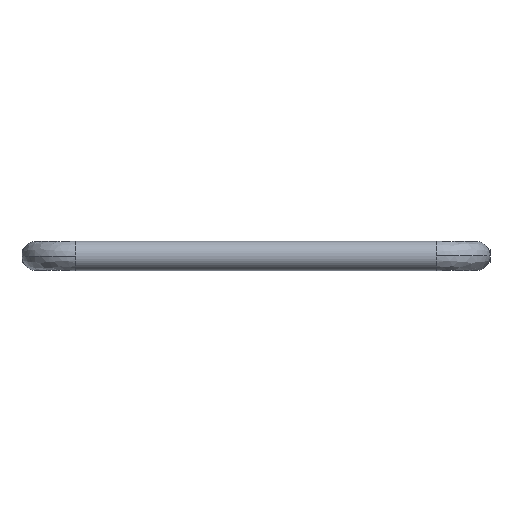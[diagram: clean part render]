
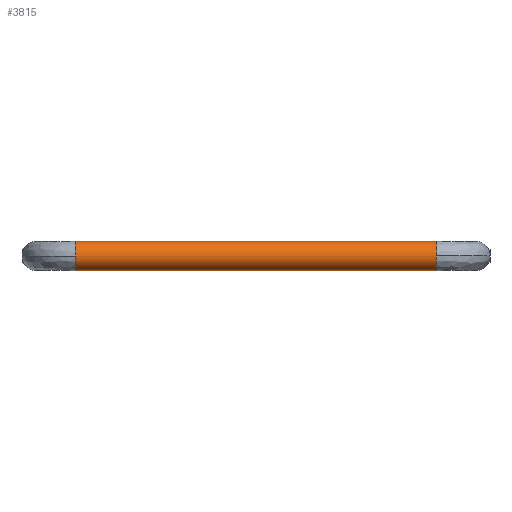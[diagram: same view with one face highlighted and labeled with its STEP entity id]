
A CAD part, front view. The second image highlights one B-rep face of the part: STEP entity #3815.
In plain terms, the highlighted cylindrical face has radius 3 mm (diameter 6 mm), a partial arc.
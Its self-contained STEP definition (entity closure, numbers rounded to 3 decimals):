
#144 = EDGE_LOOP ( 'NONE', ( #574, #3087, #2159, #4270, #2615, #1624 ) ) ;
#289 = VERTEX_POINT ( 'NONE', #1090 ) ;
#393 = CARTESIAN_POINT ( 'NONE',  ( 3., 21., -37. ) ) ;
#524 = CARTESIAN_POINT ( 'NONE',  ( -3., 21., -37. ) ) ;
#556 = VERTEX_POINT ( 'NONE', #659 ) ;
#574 = ORIENTED_EDGE ( 'NONE', *, *, #752, .T. ) ;
#659 = CARTESIAN_POINT ( 'NONE',  ( 3., 21., -37. ) ) ;
#752 = EDGE_CURVE ( 'NONE', #289, #3978, #2975, .T. ) ;
#914 = DIRECTION ( 'NONE',  ( 1., 0., 0. ) ) ;
#1090 = CARTESIAN_POINT ( 'NONE',  ( 0., 24., -37. ) ) ;
#1106 = CARTESIAN_POINT ( 'NONE',  ( 0., 21., -37. ) ) ;
#1124 = CARTESIAN_POINT ( 'NONE',  ( -3., 21., -37. ) ) ;
#1218 = CARTESIAN_POINT ( 'NONE',  ( 0., 21., -37. ) ) ;
#1226 = CARTESIAN_POINT ( 'NONE',  ( 0., 21., 37. ) ) ;
#1227 = LINE ( 'NONE', #524, #3655 ) ;
#1310 = VERTEX_POINT ( 'NONE', #3823 ) ;
#1449 = DIRECTION ( 'NONE',  ( 1., 0., 0. ) ) ;
#1494 = DIRECTION ( 'NONE',  ( 0., 0., 1. ) ) ;
#1551 = EDGE_CURVE ( 'NONE', #3978, #2602, #1227, .T. ) ;
#1624 = ORIENTED_EDGE ( 'NONE', *, *, #1822, .T. ) ;
#1631 = VERTEX_POINT ( 'NONE', #2171 ) ;
#1636 = AXIS2_PLACEMENT_3D ( 'NONE', #3679, #3382, #3339 ) ;
#1789 = DIRECTION ( 'NONE',  ( 0., 0., 1. ) ) ;
#1822 = EDGE_CURVE ( 'NONE', #556, #289, #3190, .T. ) ;
#1914 = AXIS2_PLACEMENT_3D ( 'NONE', #2927, #4302, #4071 ) ;
#1917 = EDGE_CURVE ( 'NONE', #1310, #1631, #3343, .T. ) ;
#2159 = ORIENTED_EDGE ( 'NONE', *, *, #2761, .T. ) ;
#2171 = CARTESIAN_POINT ( 'NONE',  ( 3., 21., 37. ) ) ;
#2273 = AXIS2_PLACEMENT_3D ( 'NONE', #1226, #3603, #914 ) ;
#2396 = AXIS2_PLACEMENT_3D ( 'NONE', #1106, #1789, #1449 ) ;
#2602 = VERTEX_POINT ( 'NONE', #3130 ) ;
#2615 = ORIENTED_EDGE ( 'NONE', *, *, #3537, .F. ) ;
#2761 = EDGE_CURVE ( 'NONE', #2602, #1310, #4064, .T. ) ;
#2927 = CARTESIAN_POINT ( 'NONE',  ( 0., 21., 37. ) ) ;
#2975 = CIRCLE ( 'NONE', #2396, 3. ) ;
#3087 = ORIENTED_EDGE ( 'NONE', *, *, #1551, .T. ) ;
#3120 = DIRECTION ( 'NONE',  ( 0., 0., 1. ) ) ;
#3121 = VECTOR ( 'NONE', #3120, 1000. ) ;
#3130 = CARTESIAN_POINT ( 'NONE',  ( -3., 21., 37. ) ) ;
#3190 = CIRCLE ( 'NONE', #4194, 3. ) ;
#3214 = DIRECTION ( 'NONE',  ( 0., 0., 1. ) ) ;
#3339 = DIRECTION ( 'NONE',  ( 1., 0., 0. ) ) ;
#3343 = CIRCLE ( 'NONE', #1914, 3. ) ;
#3363 = CYLINDRICAL_SURFACE ( 'NONE', #1636, 3. ) ;
#3382 = DIRECTION ( 'NONE',  ( 0., 0., 1. ) ) ;
#3474 = LINE ( 'NONE', #393, #3121 ) ;
#3522 = DIRECTION ( 'NONE',  ( 1., 0., 0. ) ) ;
#3537 = EDGE_CURVE ( 'NONE', #556, #1631, #3474, .T. ) ;
#3603 = DIRECTION ( 'NONE',  ( 0., 0., -1. ) ) ;
#3655 = VECTOR ( 'NONE', #1494, 1000. ) ;
#3679 = CARTESIAN_POINT ( 'NONE',  ( 0., 21., -37. ) ) ;
#3815 = ADVANCED_FACE ( 'NONE', ( #4061 ), #3363, .T. ) ;
#3823 = CARTESIAN_POINT ( 'NONE',  ( 0., 24., 37. ) ) ;
#3978 = VERTEX_POINT ( 'NONE', #1124 ) ;
#4061 = FACE_OUTER_BOUND ( 'NONE', #144, .T. ) ;
#4064 = CIRCLE ( 'NONE', #2273, 3. ) ;
#4071 = DIRECTION ( 'NONE',  ( 1., 0., 0. ) ) ;
#4194 = AXIS2_PLACEMENT_3D ( 'NONE', #1218, #3214, #3522 ) ;
#4270 = ORIENTED_EDGE ( 'NONE', *, *, #1917, .T. ) ;
#4302 = DIRECTION ( 'NONE',  ( 0., 0., -1. ) ) ;
